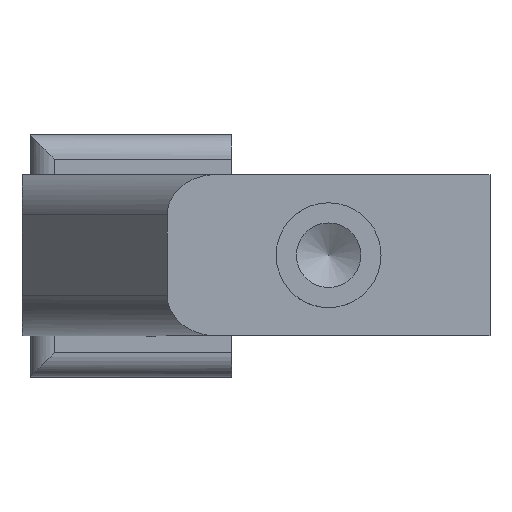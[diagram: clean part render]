
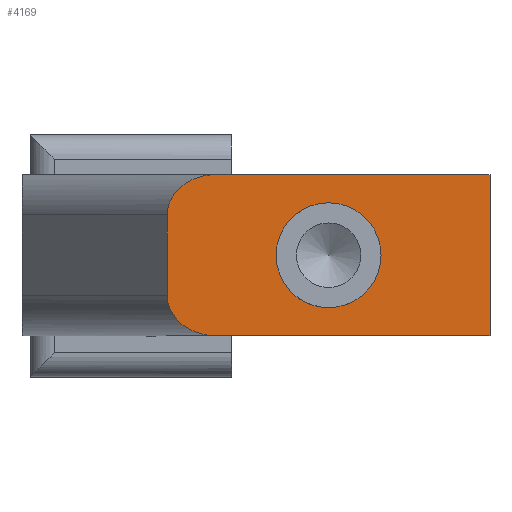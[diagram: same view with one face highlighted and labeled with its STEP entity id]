
A CAD part, left-side view. The second image highlights one B-rep face of the part: STEP entity #4169.
In plain terms, the highlighted planar face has unit normal (-1, 0, 0).
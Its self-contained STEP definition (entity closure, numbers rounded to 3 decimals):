
#220=ELLIPSE('',#4593,6.126,5.);
#221=ELLIPSE('',#4599,6.126,5.);
#320=FACE_BOUND('',#807,.T.);
#377=CIRCLE('',#4601,6.5);
#568=FACE_OUTER_BOUND('',#806,.T.);
#806=EDGE_LOOP('',(#2877,#2878,#2879,#2880,#2881,#2882));
#807=EDGE_LOOP('',(#2883));
#1093=LINE('',#6239,#1427);
#1110=LINE('',#6287,#1444);
#1112=LINE('',#6299,#1446);
#1113=LINE('',#6300,#1447);
#1427=VECTOR('',#5045,10.);
#1444=VECTOR('',#5092,10.);
#1446=VECTOR('',#5106,10.);
#1447=VECTOR('',#5107,10.);
#1759=VERTEX_POINT('',#6236);
#1760=VERTEX_POINT('',#6238);
#1773=VERTEX_POINT('',#6277);
#1774=VERTEX_POINT('',#6278);
#1776=VERTEX_POINT('',#6285);
#1780=VERTEX_POINT('',#6295);
#1781=VERTEX_POINT('',#6301);
#2185=EDGE_CURVE('',#1760,#1759,#1093,.T.);
#2205=EDGE_CURVE('',#1773,#1774,#220,.T.);
#2210=EDGE_CURVE('',#1773,#1776,#1110,.T.);
#2215=EDGE_CURVE('',#1780,#1759,#221,.T.);
#2216=EDGE_CURVE('',#1776,#1760,#1112,.T.);
#2217=EDGE_CURVE('',#1774,#1780,#1113,.T.);
#2218=EDGE_CURVE('',#1781,#1781,#377,.T.);
#2877=ORIENTED_EDGE('',*,*,#2205,.F.);
#2878=ORIENTED_EDGE('',*,*,#2210,.T.);
#2879=ORIENTED_EDGE('',*,*,#2216,.T.);
#2880=ORIENTED_EDGE('',*,*,#2185,.T.);
#2881=ORIENTED_EDGE('',*,*,#2215,.F.);
#2882=ORIENTED_EDGE('',*,*,#2217,.F.);
#2883=ORIENTED_EDGE('',*,*,#2218,.T.);
#4052=PLANE('',#4600);
#4169=ADVANCED_FACE('',(#568,#320),#4052,.T.);
#4593=AXIS2_PLACEMENT_3D('',#6279,#5084,#5085);
#4599=AXIS2_PLACEMENT_3D('',#6297,#5102,#5103);
#4600=AXIS2_PLACEMENT_3D('',#6298,#5104,#5105);
#4601=AXIS2_PLACEMENT_3D('',#6302,#5108,#5109);
#5045=DIRECTION('',(0.,1.,0.));
#5084=DIRECTION('center_axis',(1.,0.,0.));
#5085=DIRECTION('ref_axis',(0.,1.,0.));
#5092=DIRECTION('',(0.,-1.,0.));
#5102=DIRECTION('center_axis',(1.,0.,0.));
#5103=DIRECTION('ref_axis',(0.,1.,0.));
#5104=DIRECTION('center_axis',(-1.,0.,0.));
#5105=DIRECTION('ref_axis',(0.,0.,1.));
#5106=DIRECTION('',(0.,0.,1.));
#5107=DIRECTION('',(0.,0.,1.));
#5108=DIRECTION('center_axis',(1.,0.,0.));
#5109=DIRECTION('ref_axis',(0.,0.,1.));
#6236=CARTESIAN_POINT('',(-34.589,8.809,20.));
#6238=CARTESIAN_POINT('',(-34.589,-25.065,20.));
#6239=CARTESIAN_POINT('',(-34.589,14.935,20.));
#6277=CARTESIAN_POINT('',(-34.589,8.809,0.));
#6278=CARTESIAN_POINT('',(-34.589,14.935,5.));
#6279=CARTESIAN_POINT('Origin',(-34.589,8.809,5.));
#6285=CARTESIAN_POINT('',(-34.589,-25.065,0.));
#6287=CARTESIAN_POINT('',(-34.589,14.935,0.));
#6295=CARTESIAN_POINT('',(-34.589,14.935,15.));
#6297=CARTESIAN_POINT('Origin',(-34.589,8.809,15.));
#6298=CARTESIAN_POINT('Origin',(-34.589,-25.065,0.));
#6299=CARTESIAN_POINT('',(-34.589,-25.065,0.));
#6300=CARTESIAN_POINT('',(-34.589,14.935,0.));
#6301=CARTESIAN_POINT('',(-34.589,-5.065,3.5));
#6302=CARTESIAN_POINT('Origin',(-34.589,-5.065,10.));
